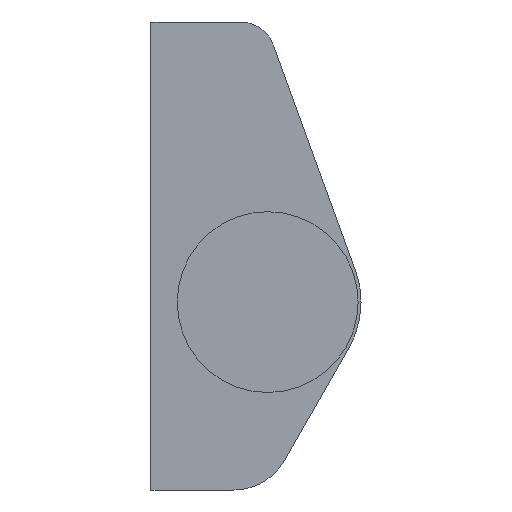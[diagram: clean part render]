
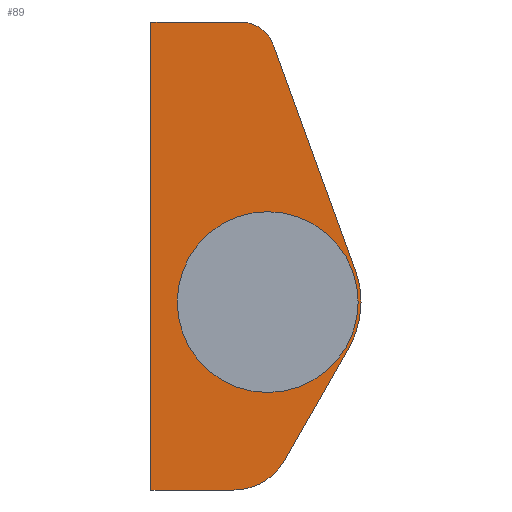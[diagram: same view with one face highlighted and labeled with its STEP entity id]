
A CAD part, front view. The second image highlights one B-rep face of the part: STEP entity #89.
In plain terms, the highlighted planar face has unit normal (0, -1, 0).
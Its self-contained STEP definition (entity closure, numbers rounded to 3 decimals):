
#12 = EDGE_CURVE ( 'NONE', #316, #327, #110, .T. ) ;
#13 = EDGE_CURVE ( 'NONE', #328, #329, #108, .T. ) ;
#15 = EDGE_CURVE ( 'NONE', #330, #324, #112, .T. ) ;
#20 = AXIS2_PLACEMENT_3D ( 'NONE', #421, #430, #431 ) ;
#21 = EDGE_CURVE ( 'NONE', #326, #315, #224, .T. ) ;
#33 = EDGE_CURVE ( 'NONE', #327, #328, #231, .T. ) ;
#38 = AXIS2_PLACEMENT_3D ( 'NONE', #415, #422, #423 ) ;
#50 = AXIS2_PLACEMENT_3D ( 'NONE', #429, #447, #448 ) ;
#53 = EDGE_CURVE ( 'NONE', #329, #330, #247, .T. ) ;
#55 = EDGE_CURVE ( 'NONE', #324, #325, #251, .T. ) ;
#59 = EDGE_CURVE ( 'NONE', #325, #326, #259, .T. ) ;
#64 = AXIS2_PLACEMENT_3D ( 'NONE', #418, #425, #426 ) ;
#70 = EDGE_CURVE ( 'NONE', #323, #322, #268, .T. ) ;
#72 = EDGE_CURVE ( 'NONE', #315, #316, #270, .T. ) ;
#73 = AXIS2_PLACEMENT_3D ( 'NONE', #355, #306, #307 ) ;
#74 = AXIS2_PLACEMENT_3D ( 'NONE', #388, #406, #407 ) ;
#78 = EDGE_CURVE ( 'NONE', #322, #323, #273, .T. ) ;
#85 = AXIS2_PLACEMENT_3D ( 'NONE', #351, #353, #354 ) ;
#89 = ADVANCED_FACE ( 'NONE', ( #276, #277 ), #446, .F. ) ;
#108 = CIRCLE ( 'NONE', #73, 3. ) ;
#110 = CIRCLE ( 'NONE', #85, 8. ) ;
#111 = VECTOR ( 'NONE', #309, 1000. ) ;
#112 = LINE ( 'NONE', #308, #111 ) ;
#132 = EDGE_LOOP ( 'NONE', ( #204, #198 ) ) ;
#136 = EDGE_LOOP ( 'NONE', ( #181, #182, #183, #184, #216, #219, #213, #203, #205 ) ) ;
#181 = ORIENTED_EDGE ( 'NONE', *, *, #55, .T. ) ;
#182 = ORIENTED_EDGE ( 'NONE', *, *, #59, .T. ) ;
#183 = ORIENTED_EDGE ( 'NONE', *, *, #21, .T. ) ;
#184 = ORIENTED_EDGE ( 'NONE', *, *, #72, .T. ) ;
#198 = ORIENTED_EDGE ( 'NONE', *, *, #78, .F. ) ;
#203 = ORIENTED_EDGE ( 'NONE', *, *, #53, .T. ) ;
#204 = ORIENTED_EDGE ( 'NONE', *, *, #70, .F. ) ;
#205 = ORIENTED_EDGE ( 'NONE', *, *, #15, .T. ) ;
#213 = ORIENTED_EDGE ( 'NONE', *, *, #13, .T. ) ;
#216 = ORIENTED_EDGE ( 'NONE', *, *, #12, .T. ) ;
#219 = ORIENTED_EDGE ( 'NONE', *, *, #33, .T. ) ;
#222 = VECTOR ( 'NONE', #364, 1000. ) ;
#224 = LINE ( 'NONE', #358, #222 ) ;
#231 = LINE ( 'NONE', #375, #234 ) ;
#234 = VECTOR ( 'NONE', #378, 1000. ) ;
#247 = LINE ( 'NONE', #396, #248 ) ;
#248 = VECTOR ( 'NONE', #397, 1000. ) ;
#251 = LINE ( 'NONE', #400, #252 ) ;
#252 = VECTOR ( 'NONE', #401, 1000. ) ;
#259 = CIRCLE ( 'NONE', #74, 5. ) ;
#268 = CIRCLE ( 'NONE', #38, 6. ) ;
#270 = CIRCLE ( 'NONE', #64, 8. ) ;
#273 = CIRCLE ( 'NONE', #20, 6. ) ;
#276 = FACE_OUTER_BOUND ( 'NONE', #136, .T. ) ;
#277 = FACE_BOUND ( 'NONE', #132, .T. ) ;
#306 = DIRECTION ( 'NONE',  ( 0., -1., 0. ) ) ;
#307 = DIRECTION ( 'NONE',  ( -1., 0., 0. ) ) ;
#308 = CARTESIAN_POINT ( 'NONE',  ( -10., 314., -16.1 ) ) ;
#309 = DIRECTION ( 'NONE',  ( 0., 0., -1. ) ) ;
#315 = VERTEX_POINT ( 'NONE', #498 ) ;
#316 = VERTEX_POINT ( 'NONE', #486 ) ;
#322 = VERTEX_POINT ( 'NONE', #502 ) ;
#323 = VERTEX_POINT ( 'NONE', #503 ) ;
#324 = VERTEX_POINT ( 'NONE', #504 ) ;
#325 = VERTEX_POINT ( 'NONE', #505 ) ;
#326 = VERTEX_POINT ( 'NONE', #506 ) ;
#327 = VERTEX_POINT ( 'NONE', #507 ) ;
#328 = VERTEX_POINT ( 'NONE', #508 ) ;
#329 = VERTEX_POINT ( 'NONE', #509 ) ;
#330 = VERTEX_POINT ( 'NONE', #510 ) ;
#351 = CARTESIAN_POINT ( 'NONE',  ( 0., 314., 0. ) ) ;
#353 = DIRECTION ( 'NONE',  ( 0., -1., 0. ) ) ;
#354 = DIRECTION ( 'NONE',  ( -1., 0., 0. ) ) ;
#355 = CARTESIAN_POINT ( 'NONE',  ( -2.322, 314., 21. ) ) ;
#358 = CARTESIAN_POINT ( 'NONE',  ( 6.942, 314., -3.975 ) ) ;
#364 = DIRECTION ( 'NONE',  ( 0.497, 0., 0.868 ) ) ;
#375 = CARTESIAN_POINT ( 'NONE',  ( 0.497, 314., 22.026 ) ) ;
#378 = DIRECTION ( 'NONE',  ( -0.342, 0., 0.94 ) ) ;
#388 = CARTESIAN_POINT ( 'NONE',  ( -2.899, 314., -11.1 ) ) ;
#396 = CARTESIAN_POINT ( 'NONE',  ( -10., 314., 24. ) ) ;
#397 = DIRECTION ( 'NONE',  ( -1., 0., 0. ) ) ;
#400 = CARTESIAN_POINT ( 'NONE',  ( -2.899, 314., -16.1 ) ) ;
#401 = DIRECTION ( 'NONE',  ( 1., 0., 0. ) ) ;
#406 = DIRECTION ( 'NONE',  ( 0., -1., 0. ) ) ;
#407 = DIRECTION ( 'NONE',  ( -1., 0., 0. ) ) ;
#415 = CARTESIAN_POINT ( 'NONE',  ( 0., 314., 0. ) ) ;
#418 = CARTESIAN_POINT ( 'NONE',  ( 0., 314., 0. ) ) ;
#421 = CARTESIAN_POINT ( 'NONE',  ( 0., 314., 0. ) ) ;
#422 = DIRECTION ( 'NONE',  ( 0., -1., 0. ) ) ;
#423 = DIRECTION ( 'NONE',  ( -1., 0., 0. ) ) ;
#425 = DIRECTION ( 'NONE',  ( 0., -1., 0. ) ) ;
#426 = DIRECTION ( 'NONE',  ( -1., 0., 0. ) ) ;
#429 = CARTESIAN_POINT ( 'NONE',  ( -2.322, 314., 21. ) ) ;
#430 = DIRECTION ( 'NONE',  ( 0., -1., 0. ) ) ;
#431 = DIRECTION ( 'NONE',  ( -1., 0., 0. ) ) ;
#446 = PLANE ( 'NONE',  #50 ) ;
#447 = DIRECTION ( 'NONE',  ( 0., 1., 0. ) ) ;
#448 = DIRECTION ( 'NONE',  ( -1., 0., 0. ) ) ;
#486 = CARTESIAN_POINT ( 'NONE',  ( 8., 314., 0. ) ) ;
#498 = CARTESIAN_POINT ( 'NONE',  ( 6.942, 314., -3.975 ) ) ;
#502 = CARTESIAN_POINT ( 'NONE',  ( 6., 314., 0. ) ) ;
#503 = CARTESIAN_POINT ( 'NONE',  ( -6., 314., 0. ) ) ;
#504 = CARTESIAN_POINT ( 'NONE',  ( -10., 314., -16.1 ) ) ;
#505 = CARTESIAN_POINT ( 'NONE',  ( -2.899, 314., -16.1 ) ) ;
#506 = CARTESIAN_POINT ( 'NONE',  ( 1.44, 314., -13.584 ) ) ;
#507 = CARTESIAN_POINT ( 'NONE',  ( 7.518, 314., 2.736 ) ) ;
#508 = CARTESIAN_POINT ( 'NONE',  ( 0.497, 314., 22.026 ) ) ;
#509 = CARTESIAN_POINT ( 'NONE',  ( -2.322, 314., 24. ) ) ;
#510 = CARTESIAN_POINT ( 'NONE',  ( -10., 314., 24. ) ) ;
